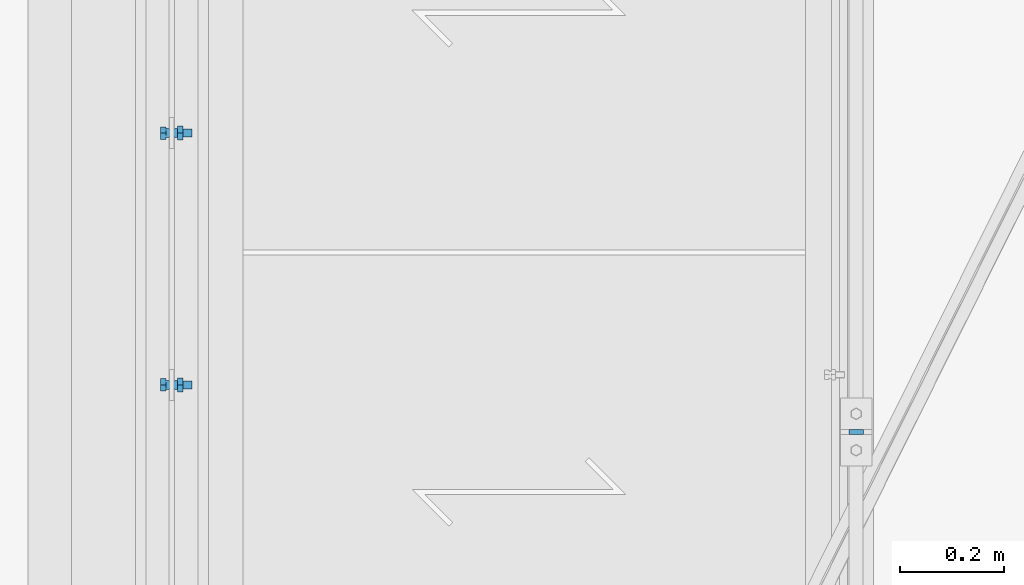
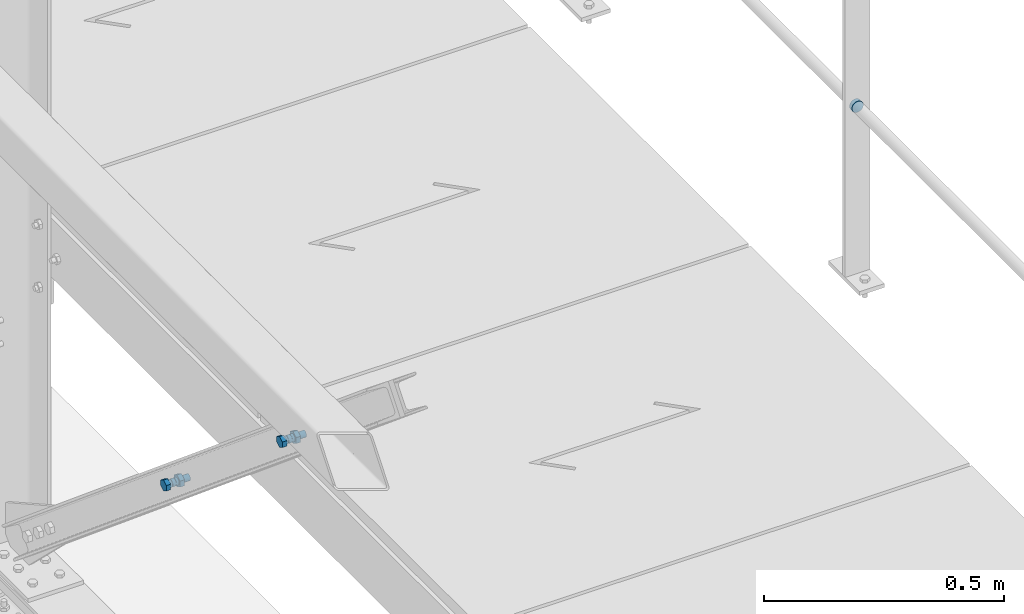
# One storey, part 312 of 362: 3 mechanical fasteners.
"""IFC2X3 building model written with IfcOpenShell, lengths in millimetres."""

from ifc_helpers import new_model, si_unit, frame, origin_with_axes, origin_2d_with_axis, place, context, subcontext, project, spatial, polyline, circle, outline, extrude, source, transform, mapped, material, type_object, element, save


model = new_model("IFC2X3")

# Units and contexts
model_context = context("Model", 3, precision=1e-05, world=origin_with_axes())
body_context = subcontext(model_context, "Body", "Model", "MODEL_VIEW")
ifc_project = project(units=[si_unit("LENGTHUNIT", "METRE", prefix="MILLI"), si_unit("AREAUNIT", "SQUARE_METRE"), si_unit("VOLUMEUNIT", "CUBIC_METRE"), si_unit("MASSUNIT", "GRAM", prefix="KILO"), si_unit("TIMEUNIT", "SECOND"), si_unit("PLANEANGLEUNIT", "RADIAN"), si_unit("SOLIDANGLEUNIT", "STERADIAN"), si_unit("THERMODYNAMICTEMPERATUREUNIT", "DEGREE_CELSIUS"), si_unit("LUMINOUSINTENSITYUNIT", "LUMEN")], contexts=[model_context])

# Site, building, storey
site_placement = place(None, origin_with_axes())
site = spatial("IfcSite", under=ifc_project, at=site_placement, Name="Undefined", CompositionType="ELEMENT")
building_placement = place(site_placement, origin_with_axes())
building = spatial("IfcBuilding", under=site, at=building_placement, Name="Undefined", CompositionType="ELEMENT")
storey_placement = place(building_placement, origin_with_axes())
storey = spatial("IfcBuildingStorey", under=building, at=storey_placement, Name="Undefined", CompositionType="ELEMENT", Elevation=0.0)

# Mechanical fasteners
ifc_material_1 = material(Name="8.8-SB-ZINGUE")
mechanical_fastener_type = type_object("IfcMechanicalFastenerType", Name="Bolt assembly")
shared_shape_1 = source(origin_with_axes(), body_context, "Body", "SweptSolid", [
    extrude(circle(Radius=9.0, at=origin_2d_with_axis()), frame((0.0, -10.9000000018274, 0.0), z_axis=(0.0, 1.0, 0.0), x_axis=(1.0, 0.0, 0.0)), (0.0, 0.0, 1.0), 6.0),
    extrude(circle(Radius=9.0, at=origin_2d_with_axis()), frame((0.0, 4.9000000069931, 0.0), z_axis=(0.0, 1.0, 0.0), x_axis=(1.0, 0.0, 0.0)), (0.0, 0.0, 1.0), 6.1),
    extrude(circle(Radius=9.0, at=origin_2d_with_axis()), frame((0.0, -3.99999923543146, 0.0), z_axis=(0.0, 1.0, 0.0), x_axis=(1.0, 0.0, 0.0)), (0.0, 0.0, 1.0), 8.0),
    extrude(outline(polyline([(13.85640646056, 0.0), (6.92820323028, 12.0000000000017), (-6.92820323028, 12.0000000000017), (-13.85640646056, 0.0), (-6.92820323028, -12.0000000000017), (6.92820323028, -12.0000000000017), (13.85640646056, 0.0)])), frame((0.0, -21.5600000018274, 0.0), z_axis=(0.0, 1.0, 0.0), x_axis=(1.0, 0.0, 0.0)), (0.0, 0.0, 1.0), 10.56),
    extrude(circle(Radius=8.0, at=origin_2d_with_axis()), frame((0.0, -11.0000000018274, 0.0), z_axis=(0.0, 1.0, 0.0), x_axis=(1.0, 0.0, 0.0)), (0.0, 0.0, 1.0), 50.0),
    extrude(outline(polyline([(15.3344231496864, 0.0), (7.6672115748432, 13.2800000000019), (-7.6672115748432, 13.2800000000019), (-15.3344231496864, 0.0), (-7.6672115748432, -13.2800000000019), (7.6672115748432, -13.2800000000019), (15.3344231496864, 0.0)])), frame((0.0, 11.0000000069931, 0.0), z_axis=(0.0, 1.0, 0.0), x_axis=(1.0, 0.0, 0.0)), (0.0, 0.0, 1.0), 10.56),
])
for number, where, z_axis, x_axis, name in (
    (1, (34280.0, 2625.46601749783, 8230.73731045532), (0.0, 1.0, 0.0), (0.0, 0.0, 1.0), "Bolt assembly"),
    (2, (34280.0, 3109.108186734, 7826.89551262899), (0.0, 1.0, 0.0), (0.0, 0.0, 1.0), "Bolt assembly"),
):
    element("IfcMechanicalFastener", number, at=place(storey_placement, frame(where, z_axis=z_axis, x_axis=x_axis)), inside=storey, type_object=mechanical_fastener_type, material=ifc_material_1, Name=name, NominalDiameter=16.0, NominalLength=50.0, context=body_context, shape_type="MappedRepresentation", body=[
        mapped(shared_shape_1, transform((0.0, 0.0, 0.0))),
    ])
ifc_material_2 = material(Name="6.8")
shared_shape_2 = source(origin_with_axes(), body_context, "Body", "SweptSolid", [
    extrude(circle(Radius=14.0, at=origin_2d_with_axis()), frame((0.0, -5.00000000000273, 0.0), z_axis=(0.0, 1.0, 0.0), x_axis=(1.0, 0.0, 0.0)), (0.0, 0.0, 1.0), 10.1),
])
mechanical_fastener_placement = place(storey_placement, frame((35593.991713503, 2535.00343252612, 8673.80000564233), z_axis=(0.0, 0.0, 1.0), x_axis=(-1.0, 0.0, 0.0)))
element("IfcMechanicalFastener", 3, at=mechanical_fastener_placement, inside=storey, type_object=mechanical_fastener_type, material=ifc_material_2, Name="Bolt assembly", NominalDiameter=27.0, NominalLength=10.0, context=body_context, shape_type="MappedRepresentation", body=[
    mapped(shared_shape_2, transform((0.0, 0.0, 0.0))),
])

save(model, "model.ifc")
